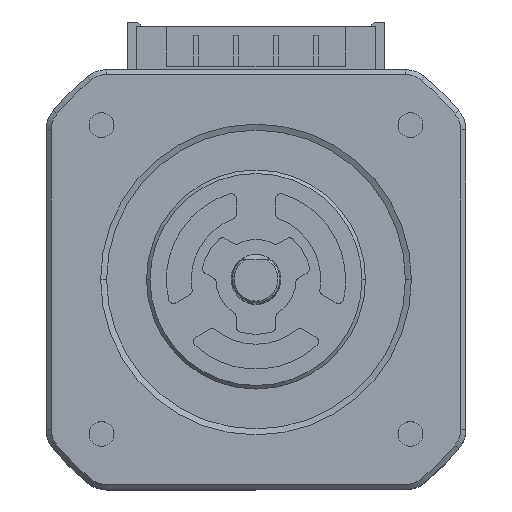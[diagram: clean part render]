
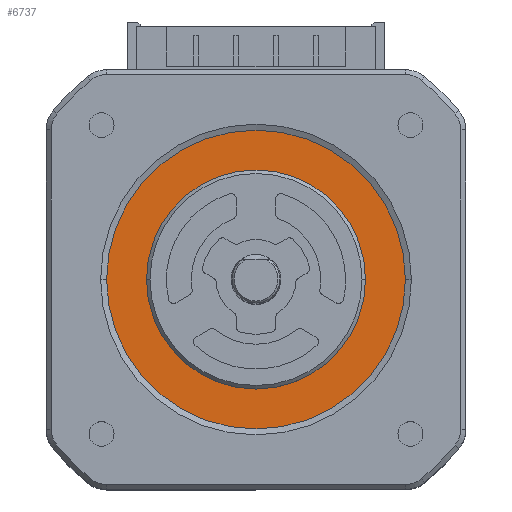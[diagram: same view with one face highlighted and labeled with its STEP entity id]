
A CAD part, top view. The second image highlights one B-rep face of the part: STEP entity #6737.
In plain terms, the highlighted planar face has unit normal (0, 0, 1).
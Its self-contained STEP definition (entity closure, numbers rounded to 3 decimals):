
#181 = VERTEX_POINT ( 'NONE', #1822 ) ;
#628 = AXIS2_PLACEMENT_3D ( 'NONE', #12715, #7542, #1373 ) ;
#634 = CARTESIAN_POINT ( 'NONE',  ( 0., 0., -0.3 ) ) ;
#639 = DIRECTION ( 'NONE',  ( 0., 0., 1. ) ) ;
#751 = VERTEX_POINT ( 'NONE', #9820 ) ;
#777 = AXIS2_PLACEMENT_3D ( 'NONE', #1746, #8979, #2791 ) ;
#933 = EDGE_LOOP ( 'NONE', ( #7971, #11409 ) ) ;
#1373 = DIRECTION ( 'NONE',  ( 1., 0., 0. ) ) ;
#1663 = DIRECTION ( 'NONE',  ( 1., 0., 0. ) ) ;
#1746 = CARTESIAN_POINT ( 'NONE',  ( 0., 0., -0.3 ) ) ;
#1822 = CARTESIAN_POINT ( 'NONE',  ( -10.995, 0., -0.3 ) ) ;
#1823 = VERTEX_POINT ( 'NONE', #6282 ) ;
#2033 = PLANE ( 'NONE',  #5946 ) ;
#2791 = DIRECTION ( 'NONE',  ( 1., 0., 0. ) ) ;
#3070 = DIRECTION ( 'NONE',  ( 1., 0., 0. ) ) ;
#3741 = EDGE_CURVE ( 'NONE', #181, #1823, #7287, .T. ) ;
#4226 = ORIENTED_EDGE ( 'NONE', *, *, #3741, .F. ) ;
#5228 = EDGE_LOOP ( 'NONE', ( #4226, #8924 ) ) ;
#5926 = CIRCLE ( 'NONE', #777, 15. ) ;
#5946 = AXIS2_PLACEMENT_3D ( 'NONE', #7130, #9265, #3070 ) ;
#6255 = FACE_OUTER_BOUND ( 'NONE', #933, .T. ) ;
#6282 = CARTESIAN_POINT ( 'NONE',  ( 10.995, 0., -0.3 ) ) ;
#6737 = ADVANCED_FACE ( 'NONE', ( #6255, #8666 ), #2033, .T. ) ;
#6799 = CARTESIAN_POINT ( 'NONE',  ( 0., 0., -0.3 ) ) ;
#6852 = CARTESIAN_POINT ( 'NONE',  ( 15., 0., -0.3 ) ) ;
#7104 = EDGE_CURVE ( 'NONE', #1823, #181, #8996, .T. ) ;
#7130 = CARTESIAN_POINT ( 'NONE',  ( 0., 15., -0.3 ) ) ;
#7157 = EDGE_CURVE ( 'NONE', #751, #12290, #5926, .T. ) ;
#7287 = CIRCLE ( 'NONE', #628, 10.995 ) ;
#7542 = DIRECTION ( 'NONE',  ( 0., 0., 1. ) ) ;
#7840 = DIRECTION ( 'NONE',  ( 0., 0., 1. ) ) ;
#7845 = DIRECTION ( 'NONE',  ( 1., 0., 0. ) ) ;
#7971 = ORIENTED_EDGE ( 'NONE', *, *, #12253, .T. ) ;
#8666 = FACE_BOUND ( 'NONE', #5228, .T. ) ;
#8774 = AXIS2_PLACEMENT_3D ( 'NONE', #6799, #639, #7845 ) ;
#8924 = ORIENTED_EDGE ( 'NONE', *, *, #7104, .F. ) ;
#8979 = DIRECTION ( 'NONE',  ( 0., 0., 1. ) ) ;
#8996 = CIRCLE ( 'NONE', #10557, 10.995 ) ;
#9265 = DIRECTION ( 'NONE',  ( 0., 0., 1. ) ) ;
#9820 = CARTESIAN_POINT ( 'NONE',  ( -15., 0., -0.3 ) ) ;
#10160 = CIRCLE ( 'NONE', #8774, 15. ) ;
#10557 = AXIS2_PLACEMENT_3D ( 'NONE', #634, #7840, #1663 ) ;
#11409 = ORIENTED_EDGE ( 'NONE', *, *, #7157, .T. ) ;
#12253 = EDGE_CURVE ( 'NONE', #12290, #751, #10160, .T. ) ;
#12290 = VERTEX_POINT ( 'NONE', #6852 ) ;
#12715 = CARTESIAN_POINT ( 'NONE',  ( 0., 0., -0.3 ) ) ;
